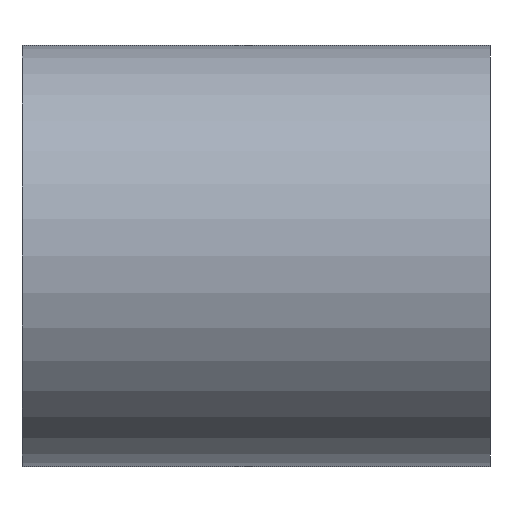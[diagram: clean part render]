
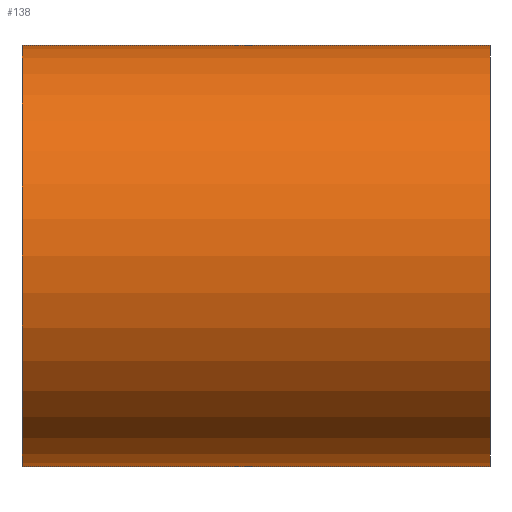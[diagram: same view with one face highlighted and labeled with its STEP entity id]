
A CAD part, front view. The second image highlights one B-rep face of the part: STEP entity #138.
In plain terms, the highlighted cylindrical face has radius 270 mm (diameter 540 mm), a partial arc.
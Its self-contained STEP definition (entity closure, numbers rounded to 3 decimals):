
#138=ADVANCED_FACE('',(#278),#279,.T.);
#278=FACE_OUTER_BOUND('',#429,.T.);
#279=CYLINDRICAL_SURFACE('',#430,270.0);
#429=EDGE_LOOP('',(#775,#776,#777,#778));
#430=AXIS2_PLACEMENT_3D('',#779,#780,#781);
#775=ORIENTED_EDGE('',*,*,#831,.T.);
#776=ORIENTED_EDGE('',*,*,#973,.F.);
#777=ORIENTED_EDGE('',*,*,#833,.T.);
#778=ORIENTED_EDGE('',*,*,#974,.F.);
#779=CARTESIAN_POINT('',(0.0,0.0,0.0));
#780=DIRECTION('',(1.0,0.0,0.0));
#781=DIRECTION('',(0.0,0.0,-1.0));
#831=EDGE_CURVE('',#978,#979,#980,.T.);
#833=EDGE_CURVE('',#983,#981,#984,.T.);
#973=EDGE_CURVE('',#983,#979,#1191,.T.);
#974=EDGE_CURVE('',#978,#981,#1192,.T.);
#978=VERTEX_POINT('',#1196);
#979=VERTEX_POINT('',#1197);
#980=LINE('',#1198,#1199);
#981=VERTEX_POINT('',#1200);
#983=VERTEX_POINT('',#1202);
#984=LINE('',#1203,#1204);
#1191=CIRCLE('',#1455,270.0);
#1192=CIRCLE('',#1456,270.0);
#1196=CARTESIAN_POINT('',(-300.0,0.0,-270.0));
#1197=CARTESIAN_POINT('',(300.0,0.0,-270.0));
#1198=CARTESIAN_POINT('',(0.0,0.,-270.0));
#1199=VECTOR('',#1459,1.0);
#1200=CARTESIAN_POINT('',(-300.0,0.,270.0));
#1202=CARTESIAN_POINT('',(300.0,0.,270.0));
#1203=CARTESIAN_POINT('',(0.0,0.,270.0));
#1204=VECTOR('',#1463,1.0);
#1455=AXIS2_PLACEMENT_3D('',#1682,#1683,#1684);
#1456=AXIS2_PLACEMENT_3D('',#1685,#1686,#1687);
#1459=DIRECTION('',(1.0,0.0,0.0));
#1463=DIRECTION('',(-1.0,-0.0,-0.0));
#1682=CARTESIAN_POINT('',(300.0,0.0,0.0));
#1683=DIRECTION('',(1.0,0.0,0.0));
#1684=DIRECTION('',(0.0,0.0,-1.0));
#1685=CARTESIAN_POINT('',(-300.0,0.0,0.0));
#1686=DIRECTION('',(-1.0,0.0,0.0));
#1687=DIRECTION('',(0.0,0.0,-1.0));
